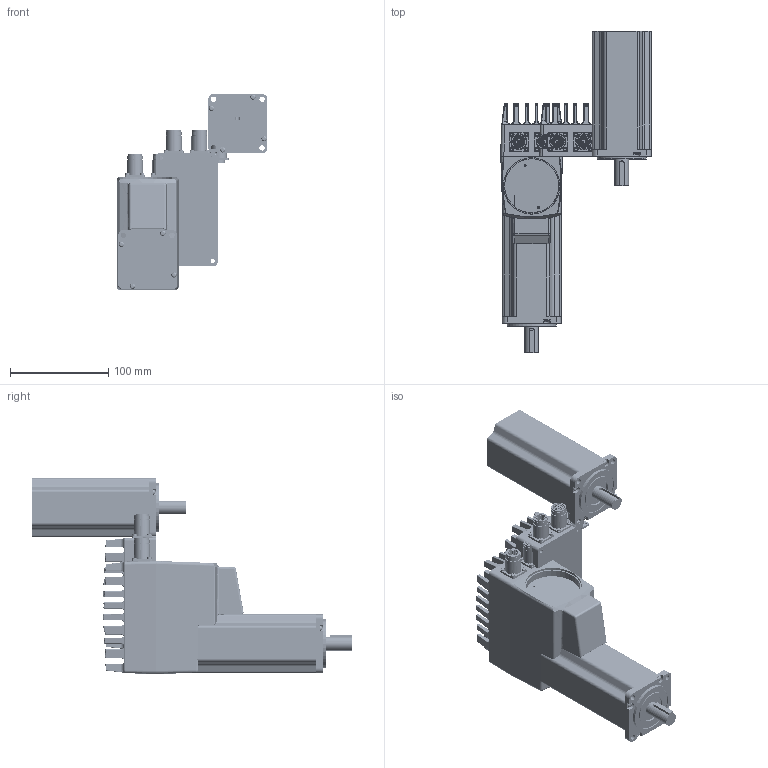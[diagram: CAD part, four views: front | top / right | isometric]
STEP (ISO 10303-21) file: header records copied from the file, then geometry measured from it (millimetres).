
FILE_DESCRIPTION( ( 'Unknown' ), '1' );
FILE_NAME( 'K:/JVL/MACxxx/MAC400/Mekanik/CAD Download tegninger MAC400/MAC400-D5/MAC400-D5.stp', 'Unknown', ( 'Unknown' ), ( 'Unknown' ), 'PSStep 10.1', 'Unknown', ' ' );
FILE_SCHEMA( ( 'AUTOMOTIVE_DESIGN { 1 0 10303 214 1 1 1 1 }' ) );
Length unit declared in the file: millimetre
Products named in the file (12): Assem1; Heat sink; Stik house; Male house; male; Female; heat sink; M2,5x6 torx; female house; House MAC400; D5 motor; Key f motor
Bounding box: 153.29 x 327 x 199.41 mm (x, y, z)
Volume: 2352990.1 mm3; surface area: 335138.3 mm2
Topology: 55 solids, 55 shells, 6273 faces, 15379 edges, 8886 vertices
Faces by surface type: cylinder 2405, plane 1428, bspline 1258, sphere 627, torus 510, cone 38, extrusion 7
Full cylindrical faces by diameter (mm): 0.9 x12, 1 x12, 1.6 x39, 1.65 x9, 1.7 x12, 1.8 x6, 2 x18, 2.013 x4, 2.5 x41, 2.6 x29, 2.64 x9, 2.8 x18, 4.2 x12, 4.4 x17, 5.5 x20, 9 x2, 10 x6, 12 x3, 12.5 x5, 12.7 x6, 12.8 x6, 13.7 x6, 14 x2, 14.9 x10, 15.2 x6, 15.5 x5, 16 x5, 16.2 x5, 17 x5, 28 x2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
Entity records: 115969 total; most frequent: CARTESIAN_POINT 54802, ORIENTED_EDGE 9570, DIRECTION 8897, EDGE_CURVE 4785, AXIS2_PLACEMENT_3D 3686, VERTEX_POINT 2901, EDGE_LOOP 2284, FACE_OUTER_BOUND 2158
